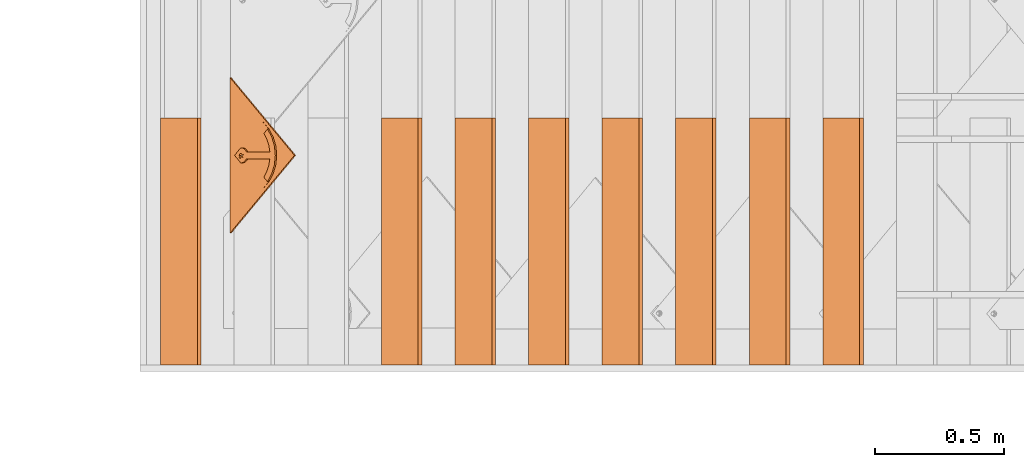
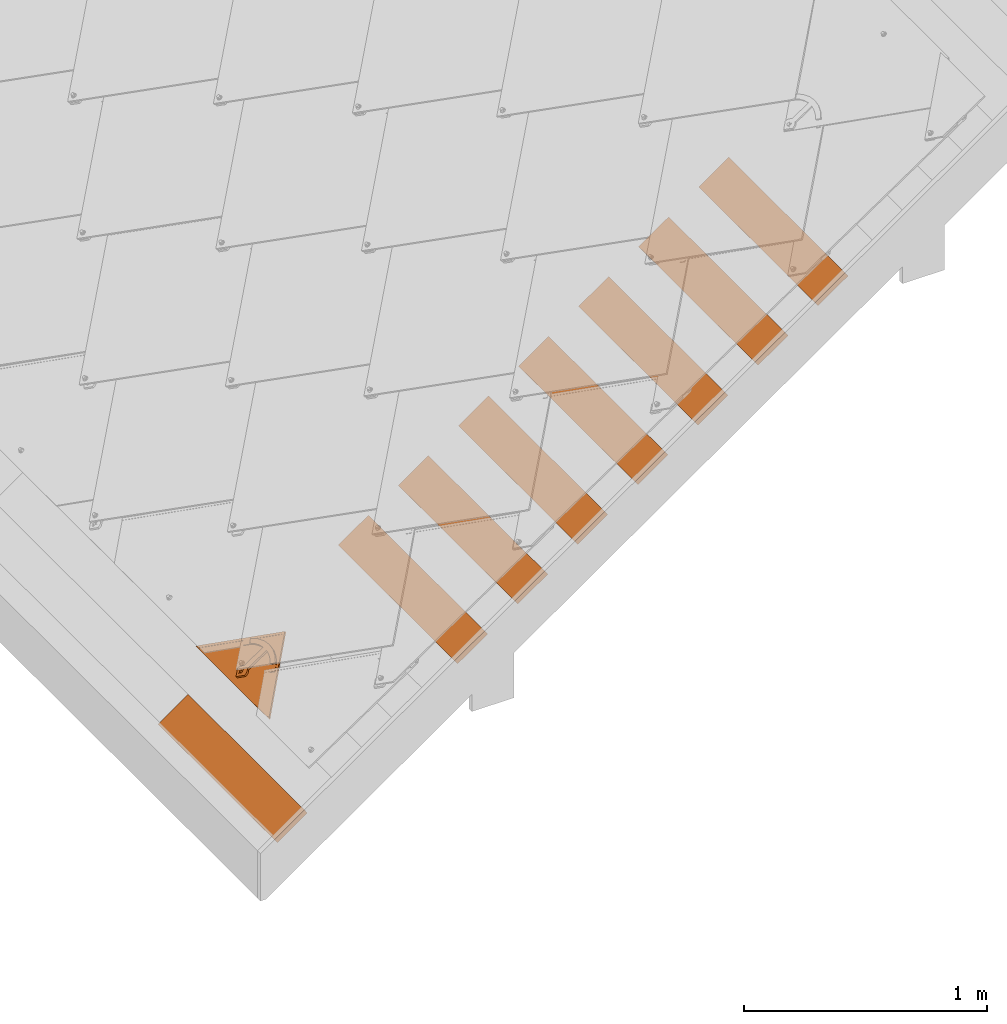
# One storey, part 97 of 133: 9 proxies, 1 element without a shape of its own.
"""IFC2X3 building model written with IfcOpenShell, lengths in millimetres."""

from ifc_helpers import new_model, entity, si_unit, converted_unit, derived_unit, direction, frame, frame_2d, origin, place, context, subcontext, project, spatial, rectangle, extrude, faceted_brep, source, transform, mapped, material, material_list, type_object, type_shapes, element, aggregate, save


model = new_model("IFC2X3")

# Units and contexts
model_context = context("Model", 3, precision=0.01, world=origin(), true_north=direction((6.12303176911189e-17, 1.0)))
body_context = subcontext(model_context, "Body", "Model", "MODEL_VIEW")
ifc_project = project(units=[si_unit("LENGTHUNIT", "METRE", prefix="MILLI"), si_unit("AREAUNIT", "SQUARE_METRE"), si_unit("VOLUMEUNIT", "CUBIC_METRE"), converted_unit("PLANEANGLEUNIT", "DEGREE", entity("IfcRatioMeasure", 0.0174532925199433), si_unit("PLANEANGLEUNIT", "RADIAN"), dimensions=[0, 0, 0, 0, 0, 0, 0]), si_unit("MASSUNIT", "GRAM", prefix="KILO"), derived_unit("MASSDENSITYUNIT", [(si_unit("MASSUNIT", "GRAM", prefix="KILO"), 1), (si_unit("LENGTHUNIT", "METRE"), -3)]), si_unit("TIMEUNIT", "SECOND"), si_unit("FREQUENCYUNIT", "HERTZ"), si_unit("THERMODYNAMICTEMPERATUREUNIT", "DEGREE_CELSIUS"), derived_unit("THERMALTRANSMITTANCEUNIT", [(si_unit("MASSUNIT", "GRAM", prefix="KILO"), 1), (si_unit("THERMODYNAMICTEMPERATUREUNIT", "KELVIN"), -1), (si_unit("TIMEUNIT", "SECOND"), -3)]), derived_unit("VOLUMETRICFLOWRATEUNIT", [(si_unit("LENGTHUNIT", "METRE"), 3), (si_unit("TIMEUNIT", "SECOND"), -1)]), si_unit("ELECTRICCURRENTUNIT", "AMPERE"), si_unit("ELECTRICVOLTAGEUNIT", "VOLT"), si_unit("POWERUNIT", "WATT"), si_unit("FORCEUNIT", "NEWTON", prefix="KILO"), si_unit("ILLUMINANCEUNIT", "LUX"), si_unit("LUMINOUSFLUXUNIT", "LUMEN"), si_unit("LUMINOUSINTENSITYUNIT", "CANDELA"), derived_unit("USERDEFINED", [(si_unit("MASSUNIT", "GRAM", prefix="KILO"), -1), (si_unit("LENGTHUNIT", "METRE"), -2), (si_unit("TIMEUNIT", "SECOND"), 3), (si_unit("LUMINOUSFLUXUNIT", "LUMEN"), 1)]), derived_unit("LINEARVELOCITYUNIT", [(si_unit("LENGTHUNIT", "METRE"), 1), (si_unit("TIMEUNIT", "SECOND"), -1)]), si_unit("PRESSUREUNIT", "PASCAL"), derived_unit("USERDEFINED", [(si_unit("LENGTHUNIT", "METRE"), -2), (si_unit("MASSUNIT", "GRAM", prefix="KILO"), 1), (si_unit("TIMEUNIT", "SECOND"), -2)])], contexts=[model_context])

# Site, building, storey
site_placement = place(None, origin())
site = spatial("IfcSite", under=ifc_project, at=site_placement, Name="Default", CompositionType="ELEMENT")
building_placement = place(site_placement, origin())
building = spatial("IfcBuilding", under=site, at=building_placement, CompositionType="ELEMENT")
storey_placement = place(building_placement, origin())
storey = spatial("IfcBuildingStorey", under=building, at=storey_placement, Name="Level 1", CompositionType="ELEMENT", Elevation=0.0)

# Assembly, proxies
assembly_placement = place(storey_placement, origin())
assembly = element("IfcElementAssembly", 1, at=assembly_placement, inside=storey, Name="Structural Framing Assembly:Roof Construction Assembly", ObjectType="Structural Framing Assembly:Roof Construction Assembly", AssemblyPlace="NOTDEFINED", PredefinedType="USERDEFINED")
ifc_material_1 = material(Name="Wood - Generic - Wood For Showcase")
building_element_proxy_type_1 = type_object("IfcBuildingElementProxyType", Name="Structural Framing 15", PredefinedType="NOTDEFINED", material=ifc_material_1)
shared_shape_1 = source(origin(), body_context, "Body", "SweptSolid", [
    extrude(rectangle(XDim=24.9999999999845, YDim=174.344679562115, at=frame_2d((-1.77635683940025e-13, -4.54747350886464e-13), x_axis=(0.0, 1.0))), frame((1128.20180147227, 2967.09519417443, 2760.23940055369), z_axis=(0.0, 1.0, 0.0), x_axis=(-0.819152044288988, 0.0, -0.573576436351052)), (0.0, 0.0, 1.0), 958.455607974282),
])
type_shapes(building_element_proxy_type_1, [shared_shape_1])
proxy_1_placement = place(assembly_placement, frame((-1142.51840539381, -9670.0, -800.0)))
proxy_1 = element("IfcBuildingElementProxy", 2, at=proxy_1_placement, type_object=building_element_proxy_type_1, material=ifc_material_1, Name="Structural Framing 59:Structural Framing 15", ObjectType="Structural Framing 59:Structural Framing 15", context=body_context, shape_type="MappedRepresentation", body=[
    mapped(shared_shape_1, transform((0.0, 0.0, 0.0), scale=1.0)),
])
building_element_proxy_type_2 = type_object("IfcBuildingElementProxyType", Name="Structural Framing 15", PredefinedType="NOTDEFINED", material=ifc_material_1)
shared_shape_2 = source(origin(), body_context, "Body", "SweptSolid", [
    extrude(rectangle(XDim=24.9999999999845, YDim=174.344679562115, at=frame_2d((-1.77635683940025e-13, -4.54747350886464e-13), x_axis=(0.0, 1.0))), frame((1128.20180147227, 2967.09519417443, 2760.23940055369), z_axis=(0.0, 1.0, 0.0), x_axis=(-0.819152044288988, 0.0, -0.573576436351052)), (0.0, 0.0, 1.0), 958.45560797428),
])
type_shapes(building_element_proxy_type_2, [shared_shape_2])
proxy_2_placement = place(assembly_placement, frame((-1428.14800674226, -9670.0, -1000.0)))
proxy_2 = element("IfcBuildingElementProxy", 3, at=proxy_2_placement, type_object=building_element_proxy_type_2, material=ifc_material_1, Name="Structural Framing 69:Structural Framing 15", ObjectType="Structural Framing 69:Structural Framing 15", context=body_context, shape_type="MappedRepresentation", body=[
    mapped(shared_shape_2, transform((0.0, 0.0, 0.0), scale=1.0)),
])
building_element_proxy_type_3 = type_object("IfcBuildingElementProxyType", Name="Structural Framing 15", PredefinedType="NOTDEFINED", material=ifc_material_1)
shared_shape_3 = source(origin(), body_context, "Body", "SweptSolid", [
    extrude(rectangle(XDim=24.9999999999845, YDim=174.344679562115, at=frame_2d((-1.77635683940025e-13, -4.54747350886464e-13), x_axis=(0.0, 1.0))), frame((1128.20180147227, 2967.09519417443, 2760.23940055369), z_axis=(0.0, 1.0, 0.0), x_axis=(-0.819152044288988, 0.0, -0.573576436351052)), (0.0, 0.0, 1.0), 958.455607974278),
])
type_shapes(building_element_proxy_type_3, [shared_shape_3])
proxy_3_placement = place(assembly_placement, frame((-1713.77760809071, -9670.0, -1200.0)))
proxy_3 = element("IfcBuildingElementProxy", 4, at=proxy_3_placement, type_object=building_element_proxy_type_3, material=ifc_material_1, Name="Structural Framing 79:Structural Framing 15", ObjectType="Structural Framing 79:Structural Framing 15", context=body_context, shape_type="MappedRepresentation", body=[
    mapped(shared_shape_3, transform((0.0, 0.0, 0.0), scale=1.0)),
])
building_element_proxy_type_4 = type_object("IfcBuildingElementProxyType", Name="Structural Framing 15", PredefinedType="NOTDEFINED", material=ifc_material_1)
shared_shape_4 = source(origin(), body_context, "Body", "SweptSolid", [
    extrude(rectangle(XDim=24.9999999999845, YDim=174.344679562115, at=frame_2d((-1.77635683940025e-13, -4.54747350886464e-13), x_axis=(0.0, 1.0))), frame((1128.20180147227, 2967.09519417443, 2760.23940055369), z_axis=(0.0, 1.0, 0.0), x_axis=(-0.819152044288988, 0.0, -0.573576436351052)), (0.0, 0.0, 1.0), 958.455607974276),
])
type_shapes(building_element_proxy_type_4, [shared_shape_4])
proxy_4_placement = place(assembly_placement, frame((-1999.40720943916, -9670.0, -1400.0)))
proxy_4 = element("IfcBuildingElementProxy", 5, at=proxy_4_placement, type_object=building_element_proxy_type_4, material=ifc_material_1, Name="Structural Framing 89:Structural Framing 15", ObjectType="Structural Framing 89:Structural Framing 15", context=body_context, shape_type="MappedRepresentation", body=[
    mapped(shared_shape_4, transform((0.0, 0.0, 0.0), scale=1.0)),
])
building_element_proxy_type_5 = type_object("IfcBuildingElementProxyType", Name="Structural Framing 15", PredefinedType="NOTDEFINED", material=ifc_material_1)
shared_shape_5 = source(origin(), body_context, "Body", "SweptSolid", [
    extrude(rectangle(XDim=24.9999999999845, YDim=174.344679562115, at=frame_2d((-1.77635683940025e-13, -4.54747350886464e-13), x_axis=(0.0, 1.0))), frame((1128.20180147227, 2967.09519417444, 2760.23940055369), z_axis=(0.0, 1.0, 0.0), x_axis=(-0.819152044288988, 0.0, -0.573576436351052)), (0.0, 0.0, 1.0), 958.455607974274),
])
type_shapes(building_element_proxy_type_5, [shared_shape_5])
proxy_5_placement = place(assembly_placement, frame((-2285.03681078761, -9670.0, -1600.0)))
proxy_5 = element("IfcBuildingElementProxy", 6, at=proxy_5_placement, type_object=building_element_proxy_type_5, material=ifc_material_1, Name="Structural Framing 99:Structural Framing 15", ObjectType="Structural Framing 99:Structural Framing 15", context=body_context, shape_type="MappedRepresentation", body=[
    mapped(shared_shape_5, transform((0.0, 0.0, 0.0), scale=1.0)),
])
building_element_proxy_type_6 = type_object("IfcBuildingElementProxyType", Name="Structural Framing 15", PredefinedType="NOTDEFINED", material=ifc_material_1)
shared_shape_6 = source(origin(), body_context, "Body", "SweptSolid", [
    extrude(rectangle(XDim=24.9999999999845, YDim=174.344679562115, at=frame_2d((-1.77635683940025e-13, -4.54747350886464e-13), x_axis=(0.0, 1.0))), frame((1128.20180147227, 2967.09519417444, 2760.23940055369), z_axis=(0.0, 1.0, 0.0), x_axis=(-0.819152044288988, 0.0, -0.573576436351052)), (0.0, 0.0, 1.0), 958.455607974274),
])
type_shapes(building_element_proxy_type_6, [shared_shape_6])
proxy_6_placement = place(assembly_placement, frame((-2570.66641213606, -9670.0, -1800.0)))
proxy_6 = element("IfcBuildingElementProxy", 7, at=proxy_6_placement, type_object=building_element_proxy_type_6, material=ifc_material_1, Name="Structural Framing 109:Structural Framing 15", ObjectType="Structural Framing 109:Structural Framing 15", context=body_context, shape_type="MappedRepresentation", body=[
    mapped(shared_shape_6, transform((0.0, 0.0, 0.0), scale=1.0)),
])
building_element_proxy_type_7 = type_object("IfcBuildingElementProxyType", Name="Structural Framing 15", PredefinedType="NOTDEFINED", material=ifc_material_1)
shared_shape_7 = source(origin(), body_context, "Body", "SweptSolid", [
    extrude(rectangle(XDim=24.9999999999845, YDim=174.344679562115, at=frame_2d((-1.77635683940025e-13, -4.54747350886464e-13), x_axis=(0.0, 1.0))), frame((1128.20180147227, 2967.09519417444, 2760.23940055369), z_axis=(0.0, 1.0, 0.0), x_axis=(-0.819152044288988, 0.0, -0.573576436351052)), (0.0, 0.0, 1.0), 958.45560797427),
])
type_shapes(building_element_proxy_type_7, [shared_shape_7])
proxy_7_placement = place(assembly_placement, frame((-2856.29601348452, -9670.0, -2000.0)))
proxy_7 = element("IfcBuildingElementProxy", 8, at=proxy_7_placement, type_object=building_element_proxy_type_7, material=ifc_material_1, Name="Structural Framing 119:Structural Framing 15", ObjectType="Structural Framing 119:Structural Framing 15", context=body_context, shape_type="MappedRepresentation", body=[
    mapped(shared_shape_7, transform((0.0, 0.0, 0.0), scale=1.0)),
])
building_element_proxy_type_8 = type_object("IfcBuildingElementProxyType", Name="Structural Framing 15", PredefinedType="NOTDEFINED", material=ifc_material_1)
shared_shape_8 = source(origin(), body_context, "Body", "SweptSolid", [
    extrude(rectangle(XDim=24.9999999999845, YDim=174.344679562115, at=frame_2d((-1.77635683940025e-13, -4.54747350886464e-13), x_axis=(0.0, 1.0))), frame((1128.20180147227, 2967.09519417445, 2760.23940055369), z_axis=(0.0, 1.0, 0.0), x_axis=(-0.819152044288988, 0.0, -0.573576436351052)), (0.0, 0.0, 1.0), 958.455607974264),
])
type_shapes(building_element_proxy_type_8, [shared_shape_8])
proxy_8_placement = place(assembly_placement, frame((-3713.18481752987, -9670.0, -2600.0)))
proxy_8 = element("IfcBuildingElementProxy", 9, at=proxy_8_placement, type_object=building_element_proxy_type_8, material=ifc_material_1, Name="Structural Framing 149:Structural Framing 15", ObjectType="Structural Framing 149:Structural Framing 15", context=body_context, shape_type="MappedRepresentation", body=[
    mapped(shared_shape_8, transform((0.0, 0.0, 0.0), scale=1.0)),
])
aggregate(assembly, [proxy_1, proxy_2, proxy_3, proxy_4, proxy_5, proxy_6, proxy_7, proxy_8])

# Proxy
ifc_material_2 = material(Name="Rubber - Sunstyle - Black")
ifc_material_3 = material(Name="Glass - Sunstyle - Tainted Black")
ifc_material_list_1 = material_list([ifc_material_2, ifc_material_3])
ifc_material_list_2 = material_list([ifc_material_2, ifc_material_3])
building_element_proxy_type_9 = type_object("IfcBuildingElementProxyType", Name="Shingle Bottom Small - Black", PredefinedType="NOTDEFINED", material=ifc_material_list_2)
shared_shape_9 = source(origin(), body_context, "Body", "Brep", [
    faceted_brep([(302.08842791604, 44.9093317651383, 22.0558382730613), (302.08842791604, 49.408700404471, 21.980485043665), (293.484723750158, 48.4726030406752, 21.9961623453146), (310.692132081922, 48.4726030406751, 21.9961623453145), (308.728656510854, 53.2419006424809, 21.9162884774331), (314.255903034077, 57.0751008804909, 21.8520919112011), (308.728656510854, 60.9083011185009, 21.7878953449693), (310.692132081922, 65.6775987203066, 21.7080214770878), (302.08842791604, 64.7415013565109, 21.7236987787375), (302.08842791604, 69.2408699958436, 21.6483455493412), (293.484723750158, 65.6775987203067, 21.708021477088), (295.448199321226, 60.908301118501, 21.7878953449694), (289.920952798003, 57.0751008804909, 21.8520919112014), (295.448199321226, 53.2419006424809, 21.9162884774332), (295.448199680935, 60.6403782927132, 5.79013870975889), (302.08842791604, 64.473578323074, 5.72594214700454), (295.448199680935, 52.9739782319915, 5.91853183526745), (302.08842791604, 49.1407782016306, 5.98272839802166), (308.728656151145, 52.9739782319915, 5.91853183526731), (308.728656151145, 60.6403782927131, 5.79013870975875), (293.484723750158, 48.2046804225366, 5.99840570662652), (302.08842791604, 44.6414091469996, 6.05808163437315), (289.920952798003, 56.8071782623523, 5.85433527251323), (293.484723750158, 65.4096761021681, 5.71026483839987), (302.08842791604, 68.972947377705, 5.65058891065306), (310.692132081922, 65.409676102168, 5.71026483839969), (314.255903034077, 56.8071782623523, 5.85433527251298), (310.692132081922, 48.2046804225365, 5.99840570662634)], [[[0, 1, 2]], [[1, 0, 3]], [[3, 4, 1]], [[4, 3, 5]], [[6, 4, 5]], [[5, 7, 6]], [[7, 8, 6]], [[8, 7, 9]], [[8, 9, 10]], [[10, 11, 8]], [[12, 11, 10]], [[2, 13, 12]], [[12, 13, 11]], [[13, 2, 1]], [[8, 11, 14, 15]], [[11, 13, 16, 14]], [[13, 1, 17, 16]], [[1, 4, 18, 17]], [[4, 6, 19, 18]], [[6, 8, 15, 19]], [[20, 17, 21]], [[17, 20, 16]], [[22, 16, 20]], [[14, 16, 22]], [[23, 14, 22]], [[15, 14, 23]], [[23, 24, 15]], [[24, 25, 15]], [[19, 15, 25]], [[19, 25, 26]], [[26, 18, 19]], [[26, 27, 18]], [[17, 18, 27]], [[27, 21, 17]], [[24, 23, 10, 9]], [[10, 23, 22, 12]], [[20, 21, 0, 2]], [[20, 2, 12, 22]], [[21, 27, 3, 0]], [[3, 27, 26, 5]], [[25, 24, 9, 7]], [[25, 7, 5, 26]]]),
    faceted_brep([(587.35835892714, 0.0, 12.5593198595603), (595.843045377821, 8.4846864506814, 12.4172224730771), (595.843045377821, 8.50980419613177, 13.9170121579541), (587.35835892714, 0.0251177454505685, 14.0591095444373), (302.088750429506, 285.189618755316, 7.7831033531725), (16.8191419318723, 0.0, 12.5593198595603), (8.33445548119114, 8.48468645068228, 12.4172224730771), (302.088750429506, 302.156612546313, 7.49894842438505), (302.088750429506, 302.181730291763, 8.9987381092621), (8.33445548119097, 8.50980419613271, 13.9170121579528), (16.8191419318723, 0.0251177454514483, 14.0591095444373), (302.088750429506, 285.214736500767, 9.28289303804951)], [[[0, 1, 2, 3]], [[1, 0, 4, 5, 6, 7]], [[2, 1, 7, 8]], [[3, 2, 8, 9, 10, 11]], [[0, 3, 11, 4]], [[5, 10, 9, 6]], [[8, 7, 6, 9]], [[4, 11, 10, 5]]]),
    faceted_brep([(302.088750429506, 302.156612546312, 7.49894842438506), (305.194256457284, 68.3255429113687, 11.4150370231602), (308.088427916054, 67.1269059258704, 11.4351112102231), (302.088427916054, 68.7343756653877, 11.4081900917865), (310.573709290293, 65.2201498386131, 11.4670446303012), (298.982599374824, 68.3255429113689, 11.4150370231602), (296.088427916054, 67.1269059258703, 11.4351112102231), (293.603146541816, 65.2201498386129, 11.4670446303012), (312.480732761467, 62.7352169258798, 11.5086610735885), (604.177500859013, 0.152567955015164, 12.5567647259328), (291.696123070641, 62.7352169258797, 11.5086610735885), (0.0, 0.152567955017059, 12.5567647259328), (290.497318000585, 59.8414512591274, 11.5571244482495), (290.088427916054, 56.7360581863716, 11.6091320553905), (290.497318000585, 53.6306651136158, 11.6611396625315), (291.696123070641, 50.7368994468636, 11.7096030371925), (293.603146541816, 48.2519665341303, 11.7512194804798), (296.088427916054, 46.3452104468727, 11.7831529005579), (298.982599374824, 45.1465734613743, 11.8032270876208), (302.088427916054, 44.7377407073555, 11.8100740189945), (313.679537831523, 59.8414512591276, 11.5571244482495), (314.088427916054, 56.7360581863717, 11.6091320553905), (313.679537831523, 53.6306651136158, 11.6611396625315), (312.480732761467, 50.7368994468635, 11.7096030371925), (310.573709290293, 48.2519665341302, 11.7512194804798), (308.088427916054, 46.3452104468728, 11.7831529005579), (305.194256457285, 45.1465734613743, 11.8032270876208), (0.0, 0.0269792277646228, 5.0578163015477), (290.088427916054, 56.6104694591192, 4.11018363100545), (290.497318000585, 53.5050763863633, 4.16219123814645), (290.497318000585, 59.7158625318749, 4.05817602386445), (291.696123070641, 50.6113107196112, 4.21065461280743), (291.696123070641, 62.6096281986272, 4.00971264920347), (302.088750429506, 302.031023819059, 0.0), (293.603146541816, 48.1263778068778, 4.25227105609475), (296.088427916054, 46.2196217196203, 4.28420447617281), (298.982599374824, 45.0209847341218, 4.30427866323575), (302.088427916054, 44.612151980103, 4.31112559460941), (604.177500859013, 0.0269792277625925, 5.05781630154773), (293.603146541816, 65.0945611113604, 3.96809620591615), (296.088427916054, 67.0013171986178, 3.93616278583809), (298.982599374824, 68.1999541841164, 3.91608859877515), (302.088427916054, 68.6087869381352, 3.90924166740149), (305.194256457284, 68.1999541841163, 3.91608859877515), (308.088427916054, 67.0013171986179, 3.93616278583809), (310.573709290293, 65.0945611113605, 3.96809620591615), (312.480732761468, 62.6096281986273, 4.00971264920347), (305.194256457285, 45.0209847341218, 4.30427866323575), (308.088427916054, 46.2196217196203, 4.28420447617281), (313.679537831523, 59.7158625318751, 4.05817602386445), (314.088427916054, 56.6104694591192, 4.11018363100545), (313.679537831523, 53.5050763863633, 4.16219123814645), (312.480732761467, 50.611310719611, 4.21065461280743), (310.573709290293, 48.1263778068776, 4.25227105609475)], [[[0, 1, 2]], [[1, 0, 3]], [[0, 2, 4]], [[5, 3, 0]], [[6, 5, 0]], [[0, 7, 6]], [[8, 0, 4]], [[0, 8, 9]], [[7, 0, 10]], [[0, 11, 10]], [[12, 10, 11]], [[11, 13, 12]], [[13, 11, 14]], [[15, 14, 11]], [[11, 16, 15]], [[17, 16, 11]], [[17, 11, 18]], [[19, 18, 11]], [[19, 11, 9]], [[9, 8, 20]], [[20, 21, 9]], [[21, 22, 9]], [[22, 23, 9]], [[9, 23, 24]], [[24, 25, 9]], [[25, 26, 9]], [[9, 26, 19]], [[27, 28, 29]], [[28, 27, 30]], [[27, 29, 31]], [[32, 30, 27]], [[32, 27, 33]], [[31, 34, 27]], [[34, 35, 27]], [[35, 36, 27]], [[36, 37, 27]], [[27, 37, 38]], [[33, 39, 32]], [[40, 39, 33]], [[41, 40, 33]], [[42, 41, 33]], [[33, 43, 42]], [[43, 33, 44]], [[45, 44, 33]], [[33, 46, 45]], [[46, 33, 38]], [[38, 37, 47]], [[47, 48, 38]], [[49, 46, 38]], [[38, 50, 49]], [[50, 38, 51]], [[52, 51, 38]], [[53, 52, 38]], [[53, 38, 48]], [[11, 0, 33, 27]], [[0, 9, 38, 33]], [[13, 28, 30, 12]], [[12, 30, 32, 10]], [[6, 7, 39, 40]], [[39, 7, 10, 32]], [[5, 6, 40, 41]], [[5, 41, 42, 3]], [[3, 42, 43, 1]], [[1, 43, 44, 2]], [[8, 4, 45, 46]], [[45, 4, 2, 44]], [[20, 8, 46, 49]], [[20, 49, 50, 21]], [[21, 50, 51, 22]], [[22, 51, 52, 23]], [[25, 24, 53, 48]], [[53, 24, 23, 52]], [[26, 25, 48, 47]], [[26, 47, 37, 19]], [[19, 37, 36, 18]], [[18, 36, 35, 17]], [[15, 16, 34, 31]], [[34, 16, 17, 35]], [[14, 15, 31, 29]], [[14, 29, 28, 13]], [[9, 11, 27, 38]]]),
    faceted_brep([(190.819384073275, 138.646056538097, 12.7376939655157), (217.144031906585, 164.967013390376, 12.2968834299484), (200.060856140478, 182.04779392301, 12.0108228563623), (193.80845410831, 176.686146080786, 12.100617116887), (187.837458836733, 171.012871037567, 12.1956303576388), (173.141714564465, 156.321247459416, 12.4416784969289), (431.035141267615, 156.321247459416, 12.4416784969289), (416.339396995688, 171.012871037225, 12.1956303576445), (410.36840172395, 176.686146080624, 12.1006171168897), (404.115999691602, 182.047793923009, 12.0108228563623), (387.031626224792, 164.968210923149, 12.2968633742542), (413.357471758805, 138.646056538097, 12.7376939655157), (296.088427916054, 67.294357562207, 21.4337091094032), (288.788427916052, 83.1076295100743, 21.1688761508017), (283.384321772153, 79.569581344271, 21.2281296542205), (293.603146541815, 65.3876014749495, 21.4656425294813), (298.982599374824, 68.4929945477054, 21.4136349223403), (302.088427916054, 68.9018273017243, 21.4067879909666), (315.388427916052, 83.107629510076, 21.1688761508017), (305.194256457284, 68.4929945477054, 21.4136349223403), (308.088427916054, 67.2943575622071, 21.4337091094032), (320.792534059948, 79.5695813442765, 21.2281296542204), (310.573709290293, 65.3876014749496, 21.4656425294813), (325.293078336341, 74.9365758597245, 21.3057209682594), (312.480732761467, 62.9026685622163, 21.5072589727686), (328.672647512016, 69.4324252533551, 21.3979017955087), (313.679537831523, 60.0089028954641, 21.5557223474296), (330.767980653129, 63.323025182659, 21.500219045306), (314.088427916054, 56.9035098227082, 21.6077299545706), (331.477855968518, 56.9035098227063, 21.6077299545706), (313.679537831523, 53.7981167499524, 21.6597375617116), (312.480732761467, 50.9043510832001, 21.7082009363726), (310.573709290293, 48.4194181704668, 21.7498173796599), (302.08842791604, 27.5182024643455, 22.0998607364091), (308.088427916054, 46.5126620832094, 21.7817507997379), (305.194256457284, 45.314025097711, 21.8018249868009), (302.088427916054, 44.9051923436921, 21.8086719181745), (298.982599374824, 45.314025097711, 21.8018249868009), (296.088427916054, 46.5126620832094, 21.7817507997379), (293.603146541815, 48.4194181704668, 21.7498173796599), (272.69899986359, 56.903509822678, 21.6077299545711), (291.696123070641, 50.9043510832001, 21.7082009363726), (290.497318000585, 53.7981167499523, 21.6597375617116), (290.088427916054, 56.9035098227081, 21.6077299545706), (273.408875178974, 63.3230251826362, 21.5002190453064), (290.497318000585, 60.008902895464, 21.5557223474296), (275.504208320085, 69.4324252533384, 21.397901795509), (291.696123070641, 62.9026685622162, 21.5072589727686), (278.883777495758, 74.9365758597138, 21.3057209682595), (288.788427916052, 192.984512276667, 19.3287117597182), (315.388427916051, 192.984512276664, 19.3287117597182), (302.088427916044, 218.456125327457, 18.9021256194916), (338.579268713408, 214.282159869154, 18.9720291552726), (340.858170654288, 188.169632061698, 19.4093490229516), (373.184513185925, 201.975945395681, 19.1781276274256), (365.012761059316, 178.765998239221, 19.5668364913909), (404.115999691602, 182.173382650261, 19.5097712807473), (387.032823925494, 165.092602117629, 19.7958318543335), (265.59758711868, 214.28215986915, 18.9720291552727), (263.318685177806, 188.169632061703, 19.4093490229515), (230.992342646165, 201.975945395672, 19.1781276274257), (239.164094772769, 178.765998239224, 19.5668364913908), (200.06085614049, 182.173382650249, 19.5097712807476), (217.144031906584, 165.092602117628, 19.7958318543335), (302.08842791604, 27.3507508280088, 12.1012628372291), (302.088427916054, 44.7377407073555, 11.8100740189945), (305.194256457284, 45.1465734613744, 11.8032270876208), (298.982599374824, 45.1465734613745, 11.8032270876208), (308.088427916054, 46.3452104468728, 11.7831529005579), (310.573709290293, 48.2519665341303, 11.7512194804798), (331.477855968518, 56.7360581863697, 11.6091320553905), (296.088427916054, 46.3452104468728, 11.7831529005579), (293.603146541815, 48.2519665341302, 11.7512194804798), (272.69899986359, 56.7360581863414, 11.609132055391), (291.696123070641, 50.7368994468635, 11.7096030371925), (290.497318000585, 53.6306651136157, 11.6611396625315), (290.088427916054, 56.7360581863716, 11.6091320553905), (273.408875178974, 63.1555735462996, 11.5016211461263), (290.497318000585, 59.8414512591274, 11.5571244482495), (275.504208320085, 69.2649736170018, 11.3993038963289), (291.696123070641, 62.7352169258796, 11.5086610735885), (278.883777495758, 74.7691242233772, 11.3071230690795), (293.603146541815, 65.2201498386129, 11.4670446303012), (283.384321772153, 79.4021297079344, 11.2295317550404), (296.088427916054, 67.1269059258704, 11.4351112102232), (288.788427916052, 82.9401778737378, 11.1702782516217), (298.982599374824, 68.3255429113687, 11.4150370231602), (302.088427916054, 68.7343756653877, 11.4081900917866), (315.388427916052, 82.9401778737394, 11.1702782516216), (288.788427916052, 192.81706064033, 9.33011386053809), (315.388427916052, 192.817060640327, 9.33011386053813), (302.088427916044, 218.28867369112, 8.90352772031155), (265.59758711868, 214.114708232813, 8.97343125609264), (263.318685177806, 188.002180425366, 9.41075112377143), (230.992342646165, 201.808493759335, 9.17952972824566), (239.164094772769, 178.598546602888, 9.56823859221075), (200.06085614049, 182.005931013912, 9.51117338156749), (217.145229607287, 164.926348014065, 9.79721389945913), (193.80845410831, 176.644283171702, 9.60096764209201), (187.837458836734, 170.971008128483, 9.69598088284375), (190.819384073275, 138.604193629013, 10.2380444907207), (173.141714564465, 156.279384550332, 9.94202902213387), (338.579268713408, 214.114708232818, 8.97343125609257), (340.858170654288, 188.002180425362, 9.41075112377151), (373.184513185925, 201.808493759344, 9.17952972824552), (365.012761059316, 178.598546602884, 9.5682385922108), (404.115999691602, 182.005931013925, 9.51117338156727), (387.032823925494, 164.925150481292, 9.79723395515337), (410.36840172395, 176.64428317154, 9.60096764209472), (416.339396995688, 170.971008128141, 9.69598088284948), (413.357471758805, 138.604193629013, 10.2380444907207), (431.035141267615, 156.279384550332, 9.94202902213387), (305.194256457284, 68.3255429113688, 11.4150370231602), (308.088427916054, 67.1269059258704, 11.4351112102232), (320.792534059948, 79.4021297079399, 11.2295317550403), (310.573709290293, 65.220149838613, 11.4670446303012), (325.293078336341, 74.7691242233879, 11.3071230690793), (312.480732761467, 62.7352169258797, 11.5086610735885), (328.672647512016, 69.2649736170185, 11.3993038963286), (313.679537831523, 59.8414512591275, 11.5571244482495), (330.767980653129, 63.1555735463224, 11.5016211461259), (314.088427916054, 56.7360581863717, 11.6091320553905), (312.480732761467, 50.7368994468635, 11.7096030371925), (313.679537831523, 53.6306651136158, 11.6611396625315)], [[[0, 1, 2, 3, 4, 5]], [[6, 7, 8, 9, 10, 11]], [[12, 13, 14]], [[12, 14, 15]], [[16, 13, 12]], [[17, 13, 16]], [[18, 13, 17]], [[17, 19, 18]], [[19, 20, 18]], [[20, 21, 18]], [[21, 20, 22]], [[21, 22, 23]], [[24, 23, 22]], [[23, 24, 25]], [[24, 26, 25]], [[27, 25, 26]], [[26, 28, 27]], [[29, 27, 28]], [[28, 30, 29]], [[30, 31, 29]], [[29, 31, 32]], [[32, 33, 29]], [[32, 34, 33]], [[35, 33, 34]], [[36, 33, 35]], [[33, 36, 37]], [[38, 33, 37]], [[38, 39, 33]], [[40, 33, 39]], [[41, 40, 39]], [[41, 42, 40]], [[42, 43, 40]], [[43, 44, 40]], [[45, 44, 43]], [[45, 46, 44]], [[45, 47, 46]], [[48, 46, 47]], [[48, 47, 15]], [[48, 15, 14]], [[18, 49, 13]], [[50, 49, 18]], [[51, 49, 50]], [[50, 52, 51]], [[50, 53, 52]], [[52, 53, 54]], [[53, 55, 54]], [[56, 54, 55]], [[57, 56, 55]], [[58, 49, 51]], [[49, 58, 59]], [[60, 59, 58]], [[60, 61, 59]], [[61, 60, 62]], [[62, 63, 61]], [[64, 65, 66]], [[65, 64, 67]], [[64, 66, 68]], [[68, 69, 64]], [[64, 69, 70]], [[71, 67, 64]], [[71, 64, 72]], [[72, 64, 73]], [[73, 74, 72]], [[74, 73, 75]], [[75, 73, 76]], [[77, 76, 73]], [[76, 77, 78]], [[78, 77, 79]], [[80, 78, 79]], [[81, 80, 79]], [[82, 80, 81]], [[83, 82, 81]], [[83, 84, 82]], [[85, 84, 83]], [[85, 86, 84]], [[87, 86, 85]], [[88, 87, 85]], [[89, 88, 85]], [[88, 89, 90]], [[89, 91, 90]], [[91, 89, 92]], [[93, 92, 89]], [[92, 93, 94]], [[95, 94, 93]], [[96, 94, 95]], [[95, 97, 96]], [[97, 98, 96]], [[98, 97, 99]], [[97, 100, 99]], [[99, 100, 101]], [[90, 91, 102]], [[103, 90, 102]], [[103, 102, 104]], [[105, 103, 104]], [[106, 105, 104]], [[107, 105, 106]], [[106, 108, 107]], [[109, 107, 108]], [[110, 107, 109]], [[109, 111, 110]], [[112, 87, 88]], [[113, 112, 88]], [[114, 113, 88]], [[115, 113, 114]], [[115, 114, 116]], [[116, 117, 115]], [[117, 116, 118]], [[118, 119, 117]], [[120, 119, 118]], [[121, 120, 70]], [[120, 121, 119]], [[70, 69, 122]], [[122, 123, 70]], [[123, 121, 70]], [[13, 49, 89, 85]], [[14, 13, 85, 83]], [[48, 14, 83, 81]], [[81, 79, 46, 48]], [[44, 46, 79, 77]], [[40, 44, 77, 73]], [[33, 40, 73, 64]], [[0, 5, 101, 100]], [[29, 33, 64, 70]], [[6, 11, 110, 111]], [[27, 29, 70, 120]], [[25, 27, 120, 118]], [[118, 116, 23, 25]], [[21, 23, 116, 114]], [[18, 21, 114, 88]], [[50, 18, 88, 90]], [[9, 106, 104, 54, 56]], [[52, 54, 104, 102]], [[51, 52, 102, 91]], [[58, 51, 91, 92]], [[94, 96, 2, 62, 60]], [[60, 58, 92, 94]], [[43, 76, 78, 45]], [[45, 78, 80, 47]], [[12, 15, 82, 84]], [[80, 82, 15, 47]], [[16, 12, 84, 86]], [[87, 17, 16, 86]], [[19, 112, 113, 20]], [[20, 113, 115, 22]], [[26, 24, 117, 119]], [[115, 117, 24, 22]], [[28, 26, 119, 121]], [[19, 17, 87, 112]], [[28, 121, 123, 30]], [[30, 123, 122, 31]], [[34, 32, 69, 68]], [[122, 69, 32, 31]], [[35, 34, 68, 66]], [[65, 36, 35, 66]], [[37, 67, 71, 38]], [[38, 71, 72, 39]], [[42, 41, 74, 75]], [[72, 74, 41, 39]], [[43, 42, 75, 76]], [[37, 36, 65, 67]], [[7, 6, 111, 109]], [[7, 109, 108, 8]], [[108, 106, 9, 8]], [[11, 10, 107, 110]], [[1, 0, 100, 97]], [[2, 96, 98, 3]], [[98, 99, 4, 3]], [[5, 4, 99, 101]], [[63, 62, 2, 1]], [[56, 57, 10]], [[10, 9, 56]], [[1, 95, 61, 63]], [[1, 97, 95]], [[93, 89, 49, 59]], [[95, 93, 59, 61]], [[90, 103, 53, 50]], [[103, 105, 55, 53]], [[10, 57, 55]], [[107, 10, 105]], [[55, 105, 10]]]),
])
type_shapes(building_element_proxy_type_9, [shared_shape_9])
proxy_9_placement = place(storey_placement, frame((-2386.42178354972, -5586.96859001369, 312.413501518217), z_axis=(-0.57357643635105, 0.0, 0.819152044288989), x_axis=(0.0, -1.0, 0.0)))
element("IfcBuildingElementProxy", 10, at=proxy_9_placement, inside=storey, type_object=building_element_proxy_type_9, material=ifc_material_list_1, Name="Roofing_Panels_SunStyle_Tile_Shingle-Bottom-Small:Shingle Bottom Small - Black", ObjectType="Roofing_Panels_SunStyle_Tile_Shingle-Bottom-Small:Shingle Bottom Small - Black", context=body_context, shape_type="MappedRepresentation", body=[
    mapped(shared_shape_9, transform((0.0, 0.0, 0.0), scale=1.0)),
])

save(model, "model.ifc")
